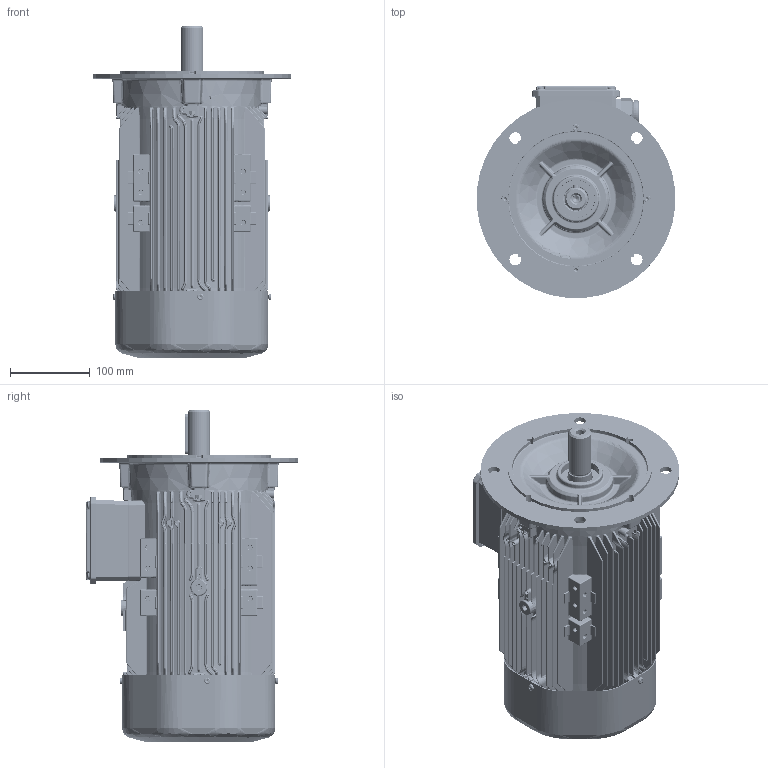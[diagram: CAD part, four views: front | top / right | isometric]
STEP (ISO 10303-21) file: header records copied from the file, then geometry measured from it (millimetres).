
FILE_DESCRIPTION(/* description */ (''),/* implementation_level */ '2;1');
FILE_NAME(/* name */ 'OUTLOOK VIEW QH100 FA B5 FF215 SPL.stp',/* time_stamp */ '2021-09-13T12:00:05+03:00',/* author */ (''),/* organization */ (''),/* preprocessor_version */ 'ST-DEVELOPER v16',/* originating_system */ 'SIEMENS PLM Software NX 11.0',/* authorisation */ '');
FILE_SCHEMA (('AUTOMOTIVE_DESIGN { 1 0 10303 214 3 1 1 1 }'));
Products named in the file (1): 26062CE45B9Cd4yi
Bounding box: 248.05 x 265.28 x 415.31 mm (x, y, z)
Volume: 5268944.2 mm3; surface area: 2001699.3 mm2
Topology: 72 solids, 72 shells, 11260 faces, 27477 edges, 16004 vertices
Faces by surface type: cylinder 3651, bspline 3452, plane 2655, torus 643, cone 506, sphere 334, extrusion 19
Full cylindrical faces by diameter (mm): 3.242 x4, 3.3 x4, 4 x9, 4.722 x3, 5 x20, 5.5 x4, 8 x8, 8.5 x9, 10 x5, 10.5 x1, 14.5 x4, 18.7 x1, 23.38 x2, 23.9 x1, 24.4 x1, 24.8 x1, 25 x5, 25.2 x1, 27.4 x1, 28 x1, 28.6 x1, 29.4 x1, 30 x3, 31.6 x1, 32 x1, 34 x2, 34.35 x8, 40 x1, 43.95 x4, 44.6 x4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
Entity records: 454159 total; most frequent: CARTESIAN_POINT 160267, ORIENTED_EDGE 52528, DIRECTION 48480, EDGE_CURVE 26264, AXIS2_PLACEMENT_3D 19751, VERTEX_POINT 15789, EDGE_LOOP 12305, ADVANCED_FACE 11240
